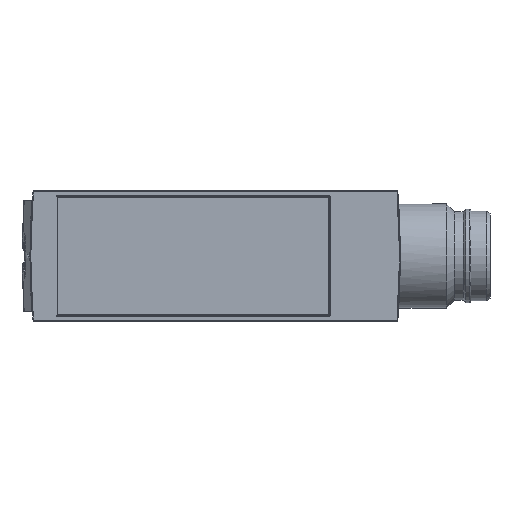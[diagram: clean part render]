
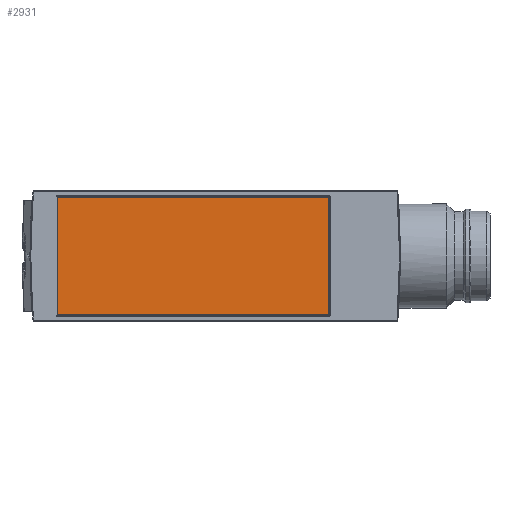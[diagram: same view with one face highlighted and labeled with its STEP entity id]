
A CAD part, left-side view. The second image highlights one B-rep face of the part: STEP entity #2931.
In plain terms, the highlighted planar face has unit normal (-1, 0, 0).
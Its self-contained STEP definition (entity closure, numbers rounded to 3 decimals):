
#2396=FACE_OUTER_BOUND('',#5280,.T.);
#2931=ADVANCED_FACE('',(#2396),#3236,.F.);
#3236=PLANE('',#11140);
#3666=LINE('',#19223,#4223);
#3668=LINE('',#19227,#4225);
#3671=LINE('',#19233,#4228);
#3672=LINE('',#19235,#4229);
#4223=VECTOR('',#12865,1.);
#4225=VECTOR('',#12869,1.);
#4228=VECTOR('',#12874,1.);
#4229=VECTOR('',#12877,1.);
#5280=EDGE_LOOP('',(#7147,#7148,#7149,#7150));
#7147=ORIENTED_EDGE('',*,*,#9773,.F.);
#7148=ORIENTED_EDGE('',*,*,#9778,.F.);
#7149=ORIENTED_EDGE('',*,*,#9779,.F.);
#7150=ORIENTED_EDGE('',*,*,#9775,.F.);
#8646=VERTEX_POINT('',#19222);
#8647=VERTEX_POINT('',#19224);
#8648=VERTEX_POINT('',#19228);
#8649=VERTEX_POINT('',#19232);
#9773=EDGE_CURVE('',#8646,#8647,#3666,.T.);
#9775=EDGE_CURVE('',#8647,#8648,#3668,.T.);
#9778=EDGE_CURVE('',#8649,#8646,#3671,.T.);
#9779=EDGE_CURVE('',#8648,#8649,#3672,.T.);
#11140=AXIS2_PLACEMENT_3D('',#19236,#12878,#12879);
#12865=DIRECTION('',(0.,0.,-1.));
#12869=DIRECTION('',(0.,1.,0.));
#12874=DIRECTION('',(0.,-1.,0.));
#12877=DIRECTION('',(0.,0.,1.));
#12878=DIRECTION('',(1.,0.,0.));
#12879=DIRECTION('',(0.,0.,1.));
#19222=CARTESIAN_POINT('',(0.15,7.1,14.3));
#19223=CARTESIAN_POINT('',(0.15,7.1,14.3));
#19224=CARTESIAN_POINT('',(0.15,7.1,0.7));
#19227=CARTESIAN_POINT('',(0.15,7.1,0.7));
#19228=CARTESIAN_POINT('',(0.15,38.4,0.7));
#19232=CARTESIAN_POINT('',(0.15,38.4,14.3));
#19233=CARTESIAN_POINT('',(0.15,38.4,14.3));
#19235=CARTESIAN_POINT('',(0.15,38.4,0.7));
#19236=CARTESIAN_POINT('',(0.15,38.4,0.7));
